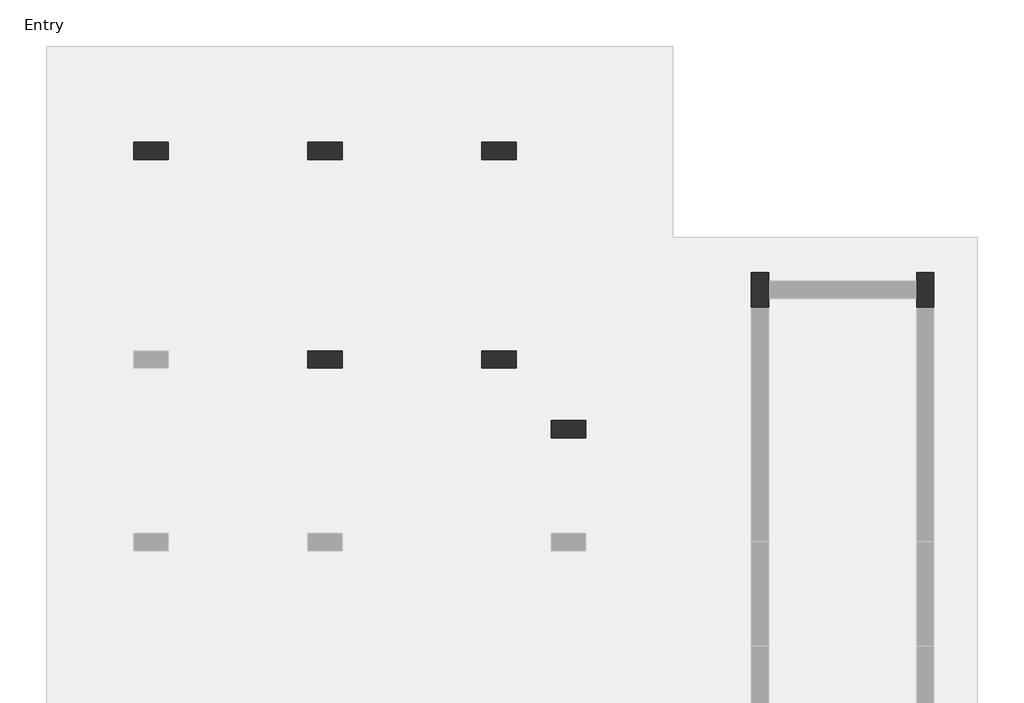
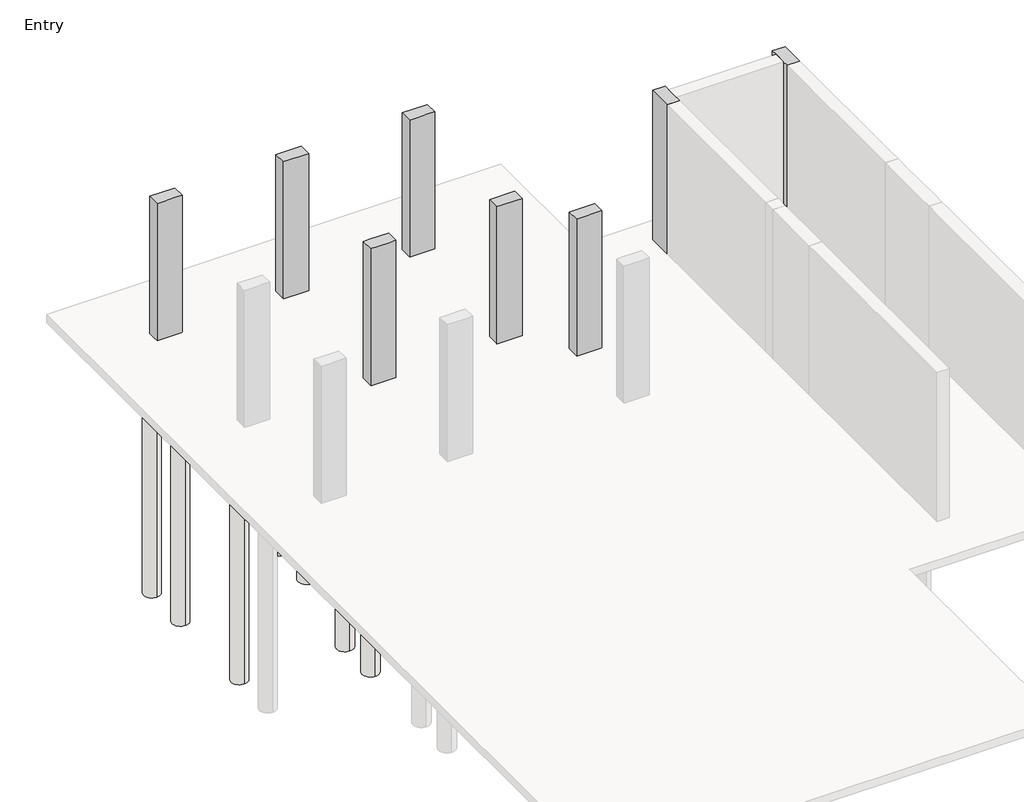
# One storey, part 3 of 3: 31 slabs, 15 columns, 3 footings.
"""IFC4 building model written with IfcOpenShell, lengths in millimetres."""

from ifc_helpers import new_model, si_unit, point, frame, frame_2d, origin, place, context, project, spatial, polyline, circle_curve, trimmed, segment, composite_curve, outline, extrude, faceted_brep, element, save

model = new_model("IFC4")

# Units and contexts
model_context = context("Model", 3, world=origin())
ifc_project = project(units=[si_unit("LENGTHUNIT", "METRE", prefix="MILLI")], contexts=[model_context])

# Site, building, storey
site = spatial("IfcSite", under=ifc_project)
building = spatial("IfcBuilding", under=site)
storey = spatial("IfcBuildingStorey", under=building, Name="Entry", Elevation=0.0)

# Columns
placement = place(None, origin())
element("IfcColumn", 1, ObjectType="Concrete-Rectangular-Column : 12 x 24", at=placement, inside=storey, context=model_context, shape_type="Brep", body=[
    faceted_brep([(-15677.5554735, 14646.9867088, 0.0), (-15067.9554735, 14646.9867088, 0.0), (-15067.9554735, 14342.1867088, 0.0), (-15677.5554735, 14342.1867088, 0.0), (-15677.5554735, 14646.9867088, 3505.2), (-15067.9554735, 14646.9867088, 3505.2), (-15067.9554735, 14646.9867088, 2895.6), (-15067.9554735, 14342.1867088, 3505.2), (-15067.9554735, 14342.1867088, 2895.6), (-15220.3554735, 14342.1867088, 3505.2), (-15525.1554735, 14342.1867088, 3505.2), (-15677.5554735, 14342.1867088, 3505.2)], [[[0, 1, 2, 3]], [[4, 5, 6, 1, 0]], [[5, 7, 8, 2, 1, 6]], [[7, 9, 10, 11, 3, 2, 8]], [[11, 4, 0, 3]], [[4, 11, 10, 9, 7, 5]]]),
])
element("IfcColumn", 2, ObjectType="Concrete-Rectangular-Column : 12 x 24", at=placement, inside=storey, context=model_context, shape_type="Brep", body=[
    faceted_brep([(-12629.5554735, 14646.9867088, 0.0), (-12019.9554735, 14646.9867088, 0.0), (-12019.9554735, 14342.1867088, 0.0), (-12629.5554735, 14342.1867088, 0.0), (-12629.5554735, 14646.9867088, 3505.2), (-12019.9554735, 14646.9867088, 3505.2), (-12019.9554735, 14646.9867088, 2895.6), (-12629.5554735, 14646.9867088, 2895.6), (-12019.9554735, 14342.1867088, 3505.2), (-12019.9554735, 14342.1867088, 2895.6), (-12172.3554735, 14342.1867088, 3505.2), (-12477.1554735, 14342.1867088, 3505.2), (-12629.5554735, 14342.1867088, 3505.2), (-12629.5554735, 14342.1867088, 2895.6)], [[[0, 1, 2, 3]], [[4, 5, 6, 1, 0, 7]], [[5, 8, 9, 2, 1, 6]], [[8, 10, 11, 12, 13, 3, 2, 9]], [[12, 4, 7, 0, 3, 13]], [[4, 12, 11, 10, 8, 5]]]),
])
element("IfcColumn", 3, ObjectType="Concrete-Rectangular-Column : 12 x 24", at=placement, inside=storey, context=model_context, shape_type="Brep", body=[
    faceted_brep([(-9581.5554735, 14646.9867088, 0.0), (-8971.9554735, 14646.9867088, 0.0), (-8971.9554735, 14342.1867088, 0.0), (-9581.5554735, 14342.1867088, 0.0), (-9581.5554735, 14646.9867088, 3505.2), (-8971.9554735, 14646.9867088, 3505.2), (-9581.5554735, 14646.9867088, 2895.6), (-8971.9554735, 14342.1867088, 3505.2), (-9124.3554735, 14342.1867088, 3505.2), (-9429.1554735, 14342.1867088, 3505.2), (-9581.5554735, 14342.1867088, 3505.2), (-9581.5554735, 14342.1867088, 2895.6)], [[[0, 1, 2, 3]], [[4, 5, 1, 0, 6]], [[5, 7, 2, 1]], [[7, 8, 9, 10, 11, 3, 2]], [[10, 4, 6, 0, 3, 11]], [[4, 10, 9, 8, 7, 5]]]),
])
element("IfcColumn", 4, ObjectType="Concrete-Rectangular-Column : 12 x 24", at=placement, inside=storey, context=model_context, shape_type="Brep", body=[
    faceted_brep([(-12629.5554735, 10989.3867088, 0.0), (-12019.9554735, 10989.3867088, 0.0), (-12019.9554735, 10684.5867088, 0.0), (-12629.5554735, 10684.5867088, 0.0), (-12629.5554735, 10989.3867088, 3505.2), (-12477.1554735, 10989.3867088, 3505.2), (-12172.3554735, 10989.3867088, 3505.2), (-12019.9554735, 10989.3867088, 3505.2), (-12019.9554735, 10989.3867088, 2895.6), (-12629.5554735, 10989.3867088, 2895.6), (-12019.9554735, 10684.5867088, 3505.2), (-12019.9554735, 10684.5867088, 2895.6), (-12172.3554735, 10684.5867088, 3505.2), (-12477.1554735, 10684.5867088, 3505.2), (-12629.5554735, 10684.5867088, 3505.2), (-12629.5554735, 10684.5867088, 2895.6)], [[[0, 1, 2, 3]], [[4, 5, 6, 7, 8, 1, 0, 9]], [[7, 10, 11, 2, 1, 8]], [[10, 12, 13, 14, 15, 3, 2, 11]], [[14, 4, 9, 0, 3, 15]], [[4, 14, 13, 12, 10, 7, 6, 5]]]),
])
element("IfcColumn", 5, ObjectType="Concrete-Rectangular-Column : 12 x 24", at=placement, inside=storey, context=model_context, shape_type="Brep", body=[
    faceted_brep([(-9581.5554735, 10989.3867088, 0.0), (-8971.9554735, 10989.3867088, 0.0), (-8971.9554735, 10684.5867088, 0.0), (-9581.5554735, 10684.5867088, 0.0), (-9581.5554735, 10989.3867088, 3505.2), (-9429.1554735, 10989.3867088, 3505.2), (-9124.3554735, 10989.3867088, 3505.2), (-8971.9554735, 10989.3867088, 3505.2), (-9581.5554735, 10989.3867088, 2895.6), (-8971.9554735, 10684.5867088, 3505.2), (-9124.3554735, 10684.5867088, 3505.2), (-9429.1554735, 10684.5867088, 3505.2), (-9581.5554735, 10684.5867088, 3505.2), (-9581.5554735, 10684.5867088, 2895.6)], [[[0, 1, 2, 3]], [[4, 5, 6, 7, 1, 0, 8]], [[7, 9, 2, 1]], [[9, 10, 11, 12, 13, 3, 2]], [[12, 4, 8, 0, 3, 13]], [[4, 12, 11, 10, 9, 7, 6, 5]]]),
])
element("IfcColumn", 6, ObjectType="Concrete-Rectangular-Column : 12 x 24", at=placement, inside=storey, context=model_context, shape_type="Brep", body=[
    faceted_brep([(-8362.3554735, 9770.1867088, 0.0), (-7752.7554735, 9770.1867088, 0.0), (-7752.7554735, 9465.3867088, 0.0), (-8362.3554735, 9465.3867088, 0.0), (-8362.3554735, 9770.1867088, 3505.2), (-7752.7554735, 9770.1867088, 3505.2), (-8362.3554735, 9770.1867088, 2895.6), (-7752.7554735, 9465.3867088, 3505.2), (-7905.1554735, 9465.3867088, 3505.2), (-8209.9554735, 9465.3867088, 3505.2), (-8362.3554735, 9465.3867088, 3505.2), (-8362.3554735, 9465.3867088, 2895.6)], [[[0, 1, 2, 3]], [[4, 5, 1, 0, 6]], [[5, 7, 2, 1]], [[7, 8, 9, 10, 11, 3, 2]], [[10, 4, 6, 0, 3, 11]], [[4, 10, 9, 8, 7, 5]]]),
])
element("IfcColumn", 7, ObjectType="Concrete-Rectangular-Column : 12 x 24", at=placement, inside=storey, context=model_context, shape_type="Brep", body=[
    faceted_brep([(-4552.3554735, 12360.9867088, 0.0), (-4552.3554735, 12208.5867088, 0.0), (-4552.3554735, 11903.7867088, 0.0), (-4552.3554735, 11751.3867088, 0.0), (-4857.1554735, 11751.3867088, 0.0), (-4857.1554735, 12360.9867088, 0.0), (-4552.3554735, 12360.9867088, 3810.0), (-4552.3554735, 12208.5867088, 3810.0), (-4552.3554735, 11903.7867088, 3810.0), (-4552.3554735, 11751.3867088, 3810.0), (-4857.1554735, 11751.3867088, 3810.0), (-4857.1554735, 12360.9867088, 3810.0)], [[[0, 1, 2, 3, 4, 5]], [[6, 7, 8, 9, 3, 2, 1, 0]], [[9, 10, 4, 3]], [[10, 11, 5, 4]], [[11, 6, 0, 5]], [[6, 11, 10, 9, 8, 7]]]),
])
element("IfcColumn", 8, ObjectType="Concrete-Rectangular-Column : 12 x 24", at=placement, inside=storey, context=model_context, shape_type="Brep", body=[
    faceted_brep([(-1656.7554735, 12360.9867088, 0.0), (-1656.7554735, 11751.3867088, 0.0), (-1961.5554735, 11751.3867088, 0.0), (-1961.5554735, 11903.7867088, 0.0), (-1961.5554735, 12208.5867088, 0.0), (-1961.5554735, 12360.9867088, 0.0), (-1656.7554735, 12360.9867088, 3810.0), (-1656.7554735, 11751.3867088, 3810.0), (-1961.5554735, 11751.3867088, 3810.0), (-1961.5554735, 11903.7867088, 3810.0), (-1961.5554735, 12208.5867088, 3810.0), (-1961.5554735, 12360.9867088, 3810.0)], [[[0, 1, 2, 3, 4, 5]], [[6, 7, 1, 0]], [[7, 8, 2, 1]], [[8, 9, 10, 11, 5, 4, 3, 2]], [[11, 6, 0, 5]], [[6, 11, 10, 9, 8, 7]]]),
])
element("IfcColumn", 9, ObjectType="Concrete-Rectangular-Column : 12 x 24", at=placement, inside=storey, context=model_context, shape_type="Brep", body=[
    faceted_brep([(-15677.5554735, 14646.9867088, 0.0), (-15067.9554735, 14646.9867088, 0.0), (-15067.9554735, 14342.1867088, 0.0), (-15677.5554735, 14342.1867088, 0.0), (-15677.5554735, 14646.9867088, 3505.2), (-15067.9554735, 14646.9867088, 3505.2), (-15067.9554735, 14646.9867088, 2895.6), (-15067.9554735, 14342.1867088, 3505.2), (-15067.9554735, 14342.1867088, 2895.6), (-15220.3554735, 14342.1867088, 3505.2), (-15525.1554735, 14342.1867088, 3505.2), (-15677.5554735, 14342.1867088, 3505.2)], [[[0, 1, 2, 3]], [[4, 5, 6, 1, 0]], [[5, 7, 8, 2, 1, 6]], [[7, 9, 10, 11, 3, 2, 8]], [[11, 4, 0, 3]], [[4, 11, 10, 9, 7, 5]]]),
])
element("IfcColumn", 10, ObjectType="Concrete-Rectangular-Column : 12 x 24", at=placement, inside=storey, context=model_context, shape_type="Brep", body=[
    faceted_brep([(-12629.5554735, 14646.9867088, 0.0), (-12019.9554735, 14646.9867088, 0.0), (-12019.9554735, 14342.1867088, 0.0), (-12629.5554735, 14342.1867088, 0.0), (-12629.5554735, 14646.9867088, 3505.2), (-12019.9554735, 14646.9867088, 3505.2), (-12019.9554735, 14646.9867088, 2895.6), (-12629.5554735, 14646.9867088, 2895.6), (-12019.9554735, 14342.1867088, 3505.2), (-12019.9554735, 14342.1867088, 2895.6), (-12172.3554735, 14342.1867088, 3505.2), (-12477.1554735, 14342.1867088, 3505.2), (-12629.5554735, 14342.1867088, 3505.2), (-12629.5554735, 14342.1867088, 2895.6)], [[[0, 1, 2, 3]], [[4, 5, 6, 1, 0, 7]], [[5, 8, 9, 2, 1, 6]], [[8, 10, 11, 12, 13, 3, 2, 9]], [[12, 4, 7, 0, 3, 13]], [[4, 12, 11, 10, 8, 5]]]),
])
element("IfcColumn", 11, ObjectType="Concrete-Rectangular-Column : 12 x 24", at=placement, inside=storey, context=model_context, shape_type="Brep", body=[
    faceted_brep([(-9581.5554735, 14646.9867088, 0.0), (-8971.9554735, 14646.9867088, 0.0), (-8971.9554735, 14342.1867088, 0.0), (-9581.5554735, 14342.1867088, 0.0), (-9581.5554735, 14646.9867088, 3505.2), (-8971.9554735, 14646.9867088, 3505.2), (-9581.5554735, 14646.9867088, 2895.6), (-8971.9554735, 14342.1867088, 3505.2), (-9124.3554735, 14342.1867088, 3505.2), (-9429.1554735, 14342.1867088, 3505.2), (-9581.5554735, 14342.1867088, 3505.2), (-9581.5554735, 14342.1867088, 2895.6)], [[[0, 1, 2, 3]], [[4, 5, 1, 0, 6]], [[5, 7, 2, 1]], [[7, 8, 9, 10, 11, 3, 2]], [[10, 4, 6, 0, 3, 11]], [[4, 10, 9, 8, 7, 5]]]),
])
element("IfcColumn", 12, ObjectType="Concrete-Rectangular-Column : 12 x 24", at=placement, inside=storey, context=model_context, shape_type="Brep", body=[
    faceted_brep([(-12629.5554735, 10989.3867088, 0.0), (-12019.9554735, 10989.3867088, 0.0), (-12019.9554735, 10684.5867088, 0.0), (-12629.5554735, 10684.5867088, 0.0), (-12629.5554735, 10989.3867088, 3505.2), (-12477.1554735, 10989.3867088, 3505.2), (-12172.3554735, 10989.3867088, 3505.2), (-12019.9554735, 10989.3867088, 3505.2), (-12019.9554735, 10989.3867088, 2895.6), (-12629.5554735, 10989.3867088, 2895.6), (-12019.9554735, 10684.5867088, 3505.2), (-12019.9554735, 10684.5867088, 2895.6), (-12172.3554735, 10684.5867088, 3505.2), (-12477.1554735, 10684.5867088, 3505.2), (-12629.5554735, 10684.5867088, 3505.2), (-12629.5554735, 10684.5867088, 2895.6)], [[[0, 1, 2, 3]], [[4, 5, 6, 7, 8, 1, 0, 9]], [[7, 10, 11, 2, 1, 8]], [[10, 12, 13, 14, 15, 3, 2, 11]], [[14, 4, 9, 0, 3, 15]], [[4, 14, 13, 12, 10, 7, 6, 5]]]),
])
element("IfcColumn", 13, ObjectType="Concrete-Rectangular-Column : 12 x 24", at=placement, inside=storey, context=model_context, shape_type="Brep", body=[
    faceted_brep([(-9581.5554735, 10989.3867088, 0.0), (-8971.9554735, 10989.3867088, 0.0), (-8971.9554735, 10684.5867088, 0.0), (-9581.5554735, 10684.5867088, 0.0), (-9581.5554735, 10989.3867088, 3505.2), (-9429.1554735, 10989.3867088, 3505.2), (-9124.3554735, 10989.3867088, 3505.2), (-8971.9554735, 10989.3867088, 3505.2), (-9581.5554735, 10989.3867088, 2895.6), (-8971.9554735, 10684.5867088, 3505.2), (-9124.3554735, 10684.5867088, 3505.2), (-9429.1554735, 10684.5867088, 3505.2), (-9581.5554735, 10684.5867088, 3505.2), (-9581.5554735, 10684.5867088, 2895.6)], [[[0, 1, 2, 3]], [[4, 5, 6, 7, 1, 0, 8]], [[7, 9, 2, 1]], [[9, 10, 11, 12, 13, 3, 2]], [[12, 4, 8, 0, 3, 13]], [[4, 12, 11, 10, 9, 7, 6, 5]]]),
])
element("IfcColumn", 14, ObjectType="Concrete-Rectangular-Column : 12 x 24", at=placement, inside=storey, context=model_context, shape_type="Brep", body=[
    faceted_brep([(-8362.3554735, 9770.1867088, 0.0), (-7752.7554735, 9770.1867088, 0.0), (-7752.7554735, 9465.3867088, 0.0), (-8362.3554735, 9465.3867088, 0.0), (-8362.3554735, 9770.1867088, 3505.2), (-7752.7554735, 9770.1867088, 3505.2), (-8362.3554735, 9770.1867088, 2895.6), (-7752.7554735, 9465.3867088, 3505.2), (-7905.1554735, 9465.3867088, 3505.2), (-8209.9554735, 9465.3867088, 3505.2), (-8362.3554735, 9465.3867088, 3505.2), (-8362.3554735, 9465.3867088, 2895.6)], [[[0, 1, 2, 3]], [[4, 5, 1, 0, 6]], [[5, 7, 2, 1]], [[7, 8, 9, 10, 11, 3, 2]], [[10, 4, 6, 0, 3, 11]], [[4, 10, 9, 8, 7, 5]]]),
])
element("IfcColumn", 15, ObjectType="Concrete-Rectangular-Column : 12 x 24", at=placement, inside=storey, context=model_context, shape_type="Brep", body=[
    faceted_brep([(-4552.3554735, 12360.9867088, 0.0), (-4552.3554735, 12208.5867088, 0.0), (-4552.3554735, 11903.7867088, 0.0), (-4552.3554735, 11751.3867088, 0.0), (-4857.1554735, 11751.3867088, 0.0), (-4857.1554735, 12360.9867088, 0.0), (-4552.3554735, 12360.9867088, 3810.0), (-4552.3554735, 12208.5867088, 3810.0), (-4552.3554735, 11903.7867088, 3810.0), (-4552.3554735, 11751.3867088, 3810.0), (-4857.1554735, 11751.3867088, 3810.0), (-4857.1554735, 12360.9867088, 3810.0)], [[[0, 1, 2, 3, 4, 5]], [[6, 7, 8, 9, 3, 2, 1, 0]], [[9, 10, 4, 3]], [[10, 11, 5, 4]], [[11, 6, 0, 5]], [[6, 11, 10, 9, 8, 7]]]),
])

# Footings
element("IfcFooting", 16, ObjectType="Bearing Footing - 36\" x 12\"", at=placement, inside=storey, context=model_context, shape_type="Brep", body=[
    faceted_brep([(-4552.3554735, 12513.3867088, -304.8), (-4552.3554735, 12462.5867088, -304.8), (-4552.3554735, 12462.5867088, -203.2), (-4552.3554735, 12513.3867088, -203.2), (-4552.3554735, 11649.7867088, -304.8), (-4552.3554735, 11598.9867088, -304.8), (-4552.3554735, 11598.9867088, -203.2), (-4552.3554735, 11649.7867088, -203.2), (-1961.5554735, 12462.5867088, -304.8), (-1961.5554735, 12513.3867088, -304.8), (-1961.5554735, 12513.3867088, -203.2), (-1961.5554735, 12462.5867088, -203.2), (-1961.5554735, 11598.9867088, -304.8), (-1961.5554735, 11649.7867088, -304.8), (-1961.5554735, 11649.7867088, -203.2), (-1961.5554735, 11598.9867088, -203.2), (-2710.8554735, 12462.5867088, -304.8), (-2710.8554735, 11649.7867088, -304.8), (-2266.3554735, 11598.9867088, -304.8), (-4247.5554735, 11598.9867088, -304.8), (-3803.0554735, 11649.7867088, -304.8), (-3803.0554735, 12462.5867088, -304.8), (-2266.3554735, 11598.9867088, -203.2), (-4247.5554735, 11598.9867088, -203.2), (-3803.0554735, 12462.5867088, -203.2), (-3803.0554735, 11649.7867088, -203.2), (-2710.8554735, 11649.7867088, -203.2), (-2710.8554735, 12462.5867088, -203.2)], [[[0, 1, 2, 3]], [[4, 5, 6, 7]], [[8, 9, 10, 11]], [[12, 13, 14, 15]], [[9, 0, 3, 10]], [[0, 9, 8, 16, 17, 13, 12, 18, 19, 5, 4, 20, 21, 1]], [[5, 19, 18, 12, 15, 22, 23, 6]], [[3, 2, 24, 25, 7, 6, 23, 22, 15, 14, 26, 27, 11, 10]], [[1, 21, 24, 2]], [[20, 4, 7, 25]], [[21, 20, 25, 24]], [[16, 8, 11, 27]], [[17, 16, 27, 26]], [[13, 17, 26, 14]]]),
])
element("IfcFooting", 17, ObjectType="Bearing Footing - 36\" x 12\"", at=placement, inside=storey, context=model_context, shape_type="SweptSolid", body=[
    extrude(outline(polyline([(-1351.9554735, 11649.7867088), (-1351.9554735, 7636.5867088), (-1402.7554735, 7636.5867088), (-1402.7554735, 8538.2867088), (-2215.5554735, 8538.2867088), (-2215.5554735, 7636.5867088), (-2266.3554735, 7636.5867088), (-2266.3554735, 11598.9867088), (-1961.5554735, 11598.9867088), (-1961.5554735, 11649.7867088), (-1351.9554735, 11649.7867088)])), frame((0.0, 0.0, -304.8), z_axis=(0.0, 0.0, 1.0), x_axis=(1.0, 0.0, 0.0)), (0.0, 0.0, 1.0), 101.6),
])
element("IfcFooting", 18, ObjectType="Bearing Footing - 36\" x 12\"", at=placement, inside=storey, context=model_context, shape_type="SweptSolid", body=[
    extrude(outline(polyline([(-5161.9554735, 7636.5867088), (-5161.9554735, 11649.7867088), (-4552.3554735, 11649.7867088), (-4552.3554735, 11598.9867088), (-4247.5554735, 11598.9867088), (-4247.5554735, 7636.5867088), (-4298.3554735, 7636.5867088), (-4298.3554735, 8538.2867088), (-5111.1554735, 8538.2867088), (-5111.1554735, 7636.5867088), (-5161.9554735, 7636.5867088)])), frame((0.0, 0.0, -304.8), z_axis=(0.0, 0.0, 1.0), x_axis=(1.0, 0.0, 0.0)), (0.0, 0.0, 1.0), 101.6),
])

# Slabs
element("IfcSlab", 19, ObjectType="Pile Cap-2 Pile : 31\"x61\"x35\"", at=placement, inside=storey, context=model_context, shape_type="SweptSolid", body=[
    extrude(outline(polyline([(-15779.1554735, 15396.2867088), (-14966.3554735, 15396.2867088), (-14966.3554735, 13592.8867088), (-15779.1554735, 13592.8867088), (-15779.1554735, 15396.2867088)])), frame((0.0, 0.0, -889.0), z_axis=(0.0, 0.0, 1.0), x_axis=(1.0, 0.0, 0.0)), (0.0, 0.0, 1.0), 685.8),
])
element("IfcSlab", 20, ObjectType="Pile Cap-2 Pile : 31\"x61\"x35\"", at=placement, inside=storey, context=model_context, shape_type="SweptSolid", body=[
    extrude(outline(polyline([(-12731.1554735, 15396.2867088), (-11918.3554735, 15396.2867088), (-11918.3554735, 13592.8867088), (-12731.1554735, 13592.8867088), (-12731.1554735, 15396.2867088)])), frame((0.0, 0.0, -889.0), z_axis=(0.0, 0.0, 1.0), x_axis=(1.0, 0.0, 0.0)), (0.0, 0.0, 1.0), 685.8),
])
element("IfcSlab", 21, ObjectType="Pile Cap-2 Pile : 31\"x61\"x35\"", at=placement, inside=storey, context=model_context, shape_type="SweptSolid", body=[
    extrude(outline(polyline([(-9683.1554735, 15396.2867088), (-8870.3554735, 15396.2867088), (-8870.3554735, 13592.8867088), (-9683.1554735, 13592.8867088), (-9683.1554735, 15396.2867088)])), frame((0.0, 0.0, -889.0), z_axis=(0.0, 0.0, 1.0), x_axis=(1.0, 0.0, 0.0)), (0.0, 0.0, 1.0), 685.8),
])
element("IfcSlab", 22, ObjectType="Pile Cap-2 Pile : 31\"x61\"x35\"", at=placement, inside=storey, context=model_context, shape_type="SweptSolid", body=[
    extrude(outline(polyline([(-9683.1554735, 11738.6867088), (-8870.3554735, 11738.6867088), (-8870.3554735, 9935.2867088), (-9683.1554735, 9935.2867088), (-9683.1554735, 11738.6867088)])), frame((0.0, 0.0, -889.0), z_axis=(0.0, 0.0, 1.0), x_axis=(1.0, 0.0, 0.0)), (0.0, 0.0, 1.0), 685.8),
])
element("IfcSlab", 23, ObjectType="Pile Cap-2 Pile : 31\"x61\"x35\"", at=placement, inside=storey, context=model_context, shape_type="Brep", body=[
    faceted_brep([(-3803.0554735, 12462.5867088, -889.0), (-3803.0554735, 11649.7867088, -889.0), (-5606.4554735, 11649.7867088, -889.0), (-5606.4554735, 12462.5867088, -889.0), (-5606.4554735, 12462.5867088, -203.2), (-4552.3554735, 12462.5867088, -203.2), (-3803.0554735, 12462.5867088, -203.2), (-3803.0554735, 12462.5867088, -304.8), (-5606.4554735, 11649.7867088, -203.2), (-3803.0554735, 11649.7867088, -304.8), (-3803.0554735, 11649.7867088, -203.2), (-4552.3554735, 11649.7867088, -203.2), (-5161.9554735, 11649.7867088, -203.2)], [[[0, 1, 2, 3]], [[0, 3, 4, 5, 6, 7]], [[3, 2, 8, 4]], [[2, 1, 9, 10, 11, 12, 8]], [[1, 0, 7, 6, 10, 9]], [[6, 5, 4, 8, 12, 11, 10]]]),
])
element("IfcSlab", 24, ObjectType="Pile Cap-2 Pile : 31\"x61\"x35\"", at=placement, inside=storey, context=model_context, shape_type="Brep", body=[
    faceted_brep([(-907.4554735, 12462.5867088, -889.0), (-907.4554735, 11649.7867088, -889.0), (-2710.8554735, 11649.7867088, -889.0), (-2710.8554735, 12462.5867088, -889.0), (-2710.8554735, 12462.5867088, -304.8), (-2710.8554735, 12462.5867088, -203.2), (-1961.5554735, 12462.5867088, -203.2), (-907.4554735, 12462.5867088, -203.2), (-2710.8554735, 11649.7867088, -304.8), (-2710.8554735, 11649.7867088, -203.2), (-907.4554735, 11649.7867088, -203.2), (-1351.9554735, 11649.7867088, -203.2), (-1961.5554735, 11649.7867088, -203.2)], [[[0, 1, 2, 3]], [[0, 3, 4, 5, 6, 7]], [[3, 2, 8, 9, 5, 4]], [[2, 1, 10, 11, 12, 9, 8]], [[1, 0, 7, 10]], [[7, 6, 5, 9, 12, 11, 10]]]),
])
element("IfcSlab", 25, ObjectType="Pile Cap-2 Pile : 31\"x61\"x35\"", at=placement, inside=storey, context=model_context, shape_type="SweptSolid", body=[
    extrude(outline(polyline([(-8463.9554735, 10519.4867088), (-7651.1554735, 10519.4867088), (-7651.1554735, 8716.0867088), (-8463.9554735, 8716.0867088), (-8463.9554735, 10519.4867088)])), frame((0.0, 0.0, -889.0), z_axis=(0.0, 0.0, 1.0), x_axis=(1.0, 0.0, 0.0)), (0.0, 0.0, 1.0), 685.8),
])
element("IfcSlab", 26, ObjectType="Pile Cap-4 Pile : 72\"x72\"x35\"", at=placement, inside=storey, context=model_context, shape_type="SweptSolid", body=[
    extrude(outline(polyline([(-13239.1554735, 11751.3867088), (-11410.3554735, 11751.3867088), (-11410.3554735, 9922.5867088), (-13239.1554735, 9922.5867088), (-13239.1554735, 11751.3867088)])), frame((0.0, 0.0, -889.0), z_axis=(0.0, 0.0, 1.0), x_axis=(1.0, 0.0, 0.0)), (0.0, 0.0, 1.0), 685.8),
])
element("IfcSlab", 27, ObjectType="Pile-Steel Pipe : 16\" Diameter", at=placement, inside=storey, context=model_context, shape_type="SweptSolid", body=[
    extrude(outline(composite_curve([segment(trimmed(circle_curve(frame_2d((-12858.1554735, 10303.5867088)), 203.2), [point((-12858.1554735, 10100.3867088))], [point((-12858.1554735, 10506.7867088))], False, "CARTESIAN"), True, "CONTINUOUS"), segment(trimmed(circle_curve(frame_2d((-12858.1554735, 10303.5867088)), 203.2), [point((-12858.1554735, 10506.7867088))], [point((-12858.1554735, 10100.3867088))], False, "CARTESIAN"), True, "CONTINUOUS")], self_intersect=False)), frame((0.0, 0.0, -6985.0), z_axis=(0.0, 0.0, 1.0), x_axis=(1.0, 0.0, 0.0)), (0.0, 0.0, 1.0), 6096.0),
])
element("IfcSlab", 28, ObjectType="Pile-Steel Pipe : 16\" Diameter", at=placement, inside=storey, context=model_context, shape_type="SweptSolid", body=[
    extrude(outline(composite_curve([segment(trimmed(circle_curve(frame_2d((-11791.3554735, 10303.5867088)), 203.2), [point((-11791.3554735, 10100.3867088))], [point((-11791.3554735, 10506.7867088))], False, "CARTESIAN"), True, "CONTINUOUS"), segment(trimmed(circle_curve(frame_2d((-11791.3554735, 10303.5867088)), 203.2), [point((-11791.3554735, 10506.7867088))], [point((-11791.3554735, 10100.3867088))], False, "CARTESIAN"), True, "CONTINUOUS")], self_intersect=False)), frame((0.0, 0.0, -6985.0), z_axis=(0.0, 0.0, 1.0), x_axis=(1.0, 0.0, 0.0)), (0.0, 0.0, 1.0), 6096.0),
])
element("IfcSlab", 29, ObjectType="Pile-Steel Pipe : 16\" Diameter", at=placement, inside=storey, context=model_context, shape_type="SweptSolid", body=[
    extrude(outline(composite_curve([segment(trimmed(circle_curve(frame_2d((-11791.3554735, 11370.3867088)), 203.2), [point((-11791.3554735, 11167.1867088))], [point((-11791.3554735, 11573.5867088))], False, "CARTESIAN"), True, "CONTINUOUS"), segment(trimmed(circle_curve(frame_2d((-11791.3554735, 11370.3867088)), 203.2), [point((-11791.3554735, 11573.5867088))], [point((-11791.3554735, 11167.1867088))], False, "CARTESIAN"), True, "CONTINUOUS")], self_intersect=False)), frame((0.0, 0.0, -6985.0), z_axis=(0.0, 0.0, 1.0), x_axis=(1.0, 0.0, 0.0)), (0.0, 0.0, 1.0), 6096.0),
])
element("IfcSlab", 30, ObjectType="Pile-Steel Pipe : 16\" Diameter", at=placement, inside=storey, context=model_context, shape_type="SweptSolid", body=[
    extrude(outline(composite_curve([segment(trimmed(circle_curve(frame_2d((-12858.1554735, 11370.3867088)), 203.2), [point((-12858.1554735, 11167.1867088))], [point((-12858.1554735, 11573.5867088))], False, "CARTESIAN"), True, "CONTINUOUS"), segment(trimmed(circle_curve(frame_2d((-12858.1554735, 11370.3867088)), 203.2), [point((-12858.1554735, 11573.5867088))], [point((-12858.1554735, 11167.1867088))], False, "CARTESIAN"), True, "CONTINUOUS")], self_intersect=False)), frame((0.0, 0.0, -6985.0), z_axis=(0.0, 0.0, 1.0), x_axis=(1.0, 0.0, 0.0)), (0.0, 0.0, 1.0), 6096.0),
])
element("IfcSlab", 31, ObjectType="Pile-Steel Pipe : 16\" Diameter", at=placement, inside=storey, context=model_context, shape_type="SweptSolid", body=[
    extrude(outline(composite_curve([segment(trimmed(circle_curve(frame_2d((-11791.3554735, 8169.9867088)), 203.2), [point((-11791.3554735, 7966.7867088))], [point((-11791.3554735, 8373.1867088))], False, "CARTESIAN"), True, "CONTINUOUS"), segment(trimmed(circle_curve(frame_2d((-11791.3554735, 8169.9867088)), 203.2), [point((-11791.3554735, 8373.1867088))], [point((-11791.3554735, 7966.7867088))], False, "CARTESIAN"), True, "CONTINUOUS")], self_intersect=False)), frame((0.0, 0.0, -6985.0), z_axis=(0.0, 0.0, 1.0), x_axis=(1.0, 0.0, 0.0)), (0.0, 0.0, 1.0), 6096.0),
])
element("IfcSlab", 32, ObjectType="Pile-Steel Pipe : 16\" Diameter", at=placement, inside=storey, context=model_context, shape_type="SweptSolid", body=[
    extrude(outline(composite_curve([segment(trimmed(circle_curve(frame_2d((-15372.7554735, 15091.4867088)), 203.2), [point((-15372.7554735, 14888.2867088))], [point((-15372.7554735, 15294.6867088))], False, "CARTESIAN"), True, "CONTINUOUS"), segment(trimmed(circle_curve(frame_2d((-15372.7554735, 15091.4867088)), 203.2), [point((-15372.7554735, 15294.6867088))], [point((-15372.7554735, 14888.2867088))], False, "CARTESIAN"), True, "CONTINUOUS")], self_intersect=False)), frame((0.0, 0.0, -6985.0), z_axis=(0.0, 0.0, 1.0), x_axis=(1.0, 0.0, 0.0)), (0.0, 0.0, 1.0), 6096.0),
])
element("IfcSlab", 33, ObjectType="Pile-Steel Pipe : 16\" Diameter", at=placement, inside=storey, context=model_context, shape_type="SweptSolid", body=[
    extrude(outline(composite_curve([segment(trimmed(circle_curve(frame_2d((-15372.7554735, 13897.6867088)), 203.2), [point((-15372.7554735, 13694.4867088))], [point((-15372.7554735, 14100.8867088))], False, "CARTESIAN"), True, "CONTINUOUS"), segment(trimmed(circle_curve(frame_2d((-15372.7554735, 13897.6867088)), 203.2), [point((-15372.7554735, 14100.8867088))], [point((-15372.7554735, 13694.4867088))], False, "CARTESIAN"), True, "CONTINUOUS")], self_intersect=False)), frame((0.0, 0.0, -6985.0), z_axis=(0.0, 0.0, 1.0), x_axis=(1.0, 0.0, 0.0)), (0.0, 0.0, 1.0), 6096.0),
])
element("IfcSlab", 34, ObjectType="Pile-Steel Pipe : 16\" Diameter", at=placement, inside=storey, context=model_context, shape_type="SweptSolid", body=[
    extrude(outline(composite_curve([segment(trimmed(circle_curve(frame_2d((-12324.7554735, 15091.4867088)), 203.2), [point((-12324.7554735, 14888.2867088))], [point((-12324.7554735, 15294.6867088))], False, "CARTESIAN"), True, "CONTINUOUS"), segment(trimmed(circle_curve(frame_2d((-12324.7554735, 15091.4867088)), 203.2), [point((-12324.7554735, 15294.6867088))], [point((-12324.7554735, 14888.2867088))], False, "CARTESIAN"), True, "CONTINUOUS")], self_intersect=False)), frame((0.0, 0.0, -6985.0), z_axis=(0.0, 0.0, 1.0), x_axis=(1.0, 0.0, 0.0)), (0.0, 0.0, 1.0), 6096.0),
])
element("IfcSlab", 35, ObjectType="Pile-Steel Pipe : 16\" Diameter", at=placement, inside=storey, context=model_context, shape_type="SweptSolid", body=[
    extrude(outline(composite_curve([segment(trimmed(circle_curve(frame_2d((-12324.7554735, 13897.6867088)), 203.2), [point((-12324.7554735, 13694.4867088))], [point((-12324.7554735, 14100.8867088))], False, "CARTESIAN"), True, "CONTINUOUS"), segment(trimmed(circle_curve(frame_2d((-12324.7554735, 13897.6867088)), 203.2), [point((-12324.7554735, 14100.8867088))], [point((-12324.7554735, 13694.4867088))], False, "CARTESIAN"), True, "CONTINUOUS")], self_intersect=False)), frame((0.0, 0.0, -6985.0), z_axis=(0.0, 0.0, 1.0), x_axis=(1.0, 0.0, 0.0)), (0.0, 0.0, 1.0), 6096.0),
])
element("IfcSlab", 36, ObjectType="Pile-Steel Pipe : 16\" Diameter", at=placement, inside=storey, context=model_context, shape_type="SweptSolid", body=[
    extrude(outline(composite_curve([segment(trimmed(circle_curve(frame_2d((-9276.7554735, 15091.4867088)), 203.2), [point((-9276.7554735, 14888.2867088))], [point((-9276.7554735, 15294.6867088))], False, "CARTESIAN"), True, "CONTINUOUS"), segment(trimmed(circle_curve(frame_2d((-9276.7554735, 15091.4867088)), 203.2), [point((-9276.7554735, 15294.6867088))], [point((-9276.7554735, 14888.2867088))], False, "CARTESIAN"), True, "CONTINUOUS")], self_intersect=False)), frame((0.0, 0.0, -6985.0), z_axis=(0.0, 0.0, 1.0), x_axis=(1.0, 0.0, 0.0)), (0.0, 0.0, 1.0), 6096.0),
])
element("IfcSlab", 37, ObjectType="Pile-Steel Pipe : 16\" Diameter", at=placement, inside=storey, context=model_context, shape_type="SweptSolid", body=[
    extrude(outline(composite_curve([segment(trimmed(circle_curve(frame_2d((-9276.7554735, 13897.6867088)), 203.2), [point((-9276.7554735, 13694.4867088))], [point((-9276.7554735, 14100.8867088))], False, "CARTESIAN"), True, "CONTINUOUS"), segment(trimmed(circle_curve(frame_2d((-9276.7554735, 13897.6867088)), 203.2), [point((-9276.7554735, 14100.8867088))], [point((-9276.7554735, 13694.4867088))], False, "CARTESIAN"), True, "CONTINUOUS")], self_intersect=False)), frame((0.0, 0.0, -6985.0), z_axis=(0.0, 0.0, 1.0), x_axis=(1.0, 0.0, 0.0)), (0.0, 0.0, 1.0), 6096.0),
])
element("IfcSlab", 38, ObjectType="Pile-Steel Pipe : 16\" Diameter", at=placement, inside=storey, context=model_context, shape_type="SweptSolid", body=[
    extrude(outline(composite_curve([segment(trimmed(circle_curve(frame_2d((-15372.7554735, 11433.8867088)), 203.2), [point((-15372.7554735, 11230.6867088))], [point((-15372.7554735, 11637.0867088))], False, "CARTESIAN"), True, "CONTINUOUS"), segment(trimmed(circle_curve(frame_2d((-15372.7554735, 11433.8867088)), 203.2), [point((-15372.7554735, 11637.0867088))], [point((-15372.7554735, 11230.6867088))], False, "CARTESIAN"), True, "CONTINUOUS")], self_intersect=False)), frame((0.0, 0.0, -6985.0), z_axis=(0.0, 0.0, 1.0), x_axis=(1.0, 0.0, 0.0)), (0.0, 0.0, 1.0), 6096.0),
])
element("IfcSlab", 39, ObjectType="Pile-Steel Pipe : 16\" Diameter", at=placement, inside=storey, context=model_context, shape_type="SweptSolid", body=[
    extrude(outline(composite_curve([segment(trimmed(circle_curve(frame_2d((-8057.5554735, 8233.4867088)), 203.2), [point((-8057.5554735, 8030.2867088))], [point((-8057.5554735, 8436.6867088))], False, "CARTESIAN"), True, "CONTINUOUS"), segment(trimmed(circle_curve(frame_2d((-8057.5554735, 8233.4867088)), 203.2), [point((-8057.5554735, 8436.6867088))], [point((-8057.5554735, 8030.2867088))], False, "CARTESIAN"), True, "CONTINUOUS")], self_intersect=False)), frame((0.0, 0.0, -6985.0), z_axis=(0.0, 0.0, 1.0), x_axis=(1.0, 0.0, 0.0)), (0.0, 0.0, 1.0), 6096.0),
])
element("IfcSlab", 40, ObjectType="Pile-Steel Pipe : 16\" Diameter", at=placement, inside=storey, context=model_context, shape_type="SweptSolid", body=[
    extrude(outline(composite_curve([segment(trimmed(circle_curve(frame_2d((-9276.7554735, 11433.8867088)), 203.2), [point((-9276.7554735, 11230.6867088))], [point((-9276.7554735, 11637.0867088))], False, "CARTESIAN"), True, "CONTINUOUS"), segment(trimmed(circle_curve(frame_2d((-9276.7554735, 11433.8867088)), 203.2), [point((-9276.7554735, 11637.0867088))], [point((-9276.7554735, 11230.6867088))], False, "CARTESIAN"), True, "CONTINUOUS")], self_intersect=False)), frame((0.0, 0.0, -6985.0), z_axis=(0.0, 0.0, 1.0), x_axis=(1.0, 0.0, 0.0)), (0.0, 0.0, 1.0), 6096.0),
])
element("IfcSlab", 41, ObjectType="Pile-Steel Pipe : 16\" Diameter", at=placement, inside=storey, context=model_context, shape_type="SweptSolid", body=[
    extrude(outline(composite_curve([segment(trimmed(circle_curve(frame_2d((-9276.7554735, 10240.0867088)), 203.2), [point((-9276.7554735, 10036.8867088))], [point((-9276.7554735, 10443.2867088))], False, "CARTESIAN"), True, "CONTINUOUS"), segment(trimmed(circle_curve(frame_2d((-9276.7554735, 10240.0867088)), 203.2), [point((-9276.7554735, 10443.2867088))], [point((-9276.7554735, 10036.8867088))], False, "CARTESIAN"), True, "CONTINUOUS")], self_intersect=False)), frame((0.0, 0.0, -6985.0), z_axis=(0.0, 0.0, 1.0), x_axis=(1.0, 0.0, 0.0)), (0.0, 0.0, 1.0), 6096.0),
])
element("IfcSlab", 42, ObjectType="Pile-Steel Pipe : 16\" Diameter", at=placement, inside=storey, context=model_context, shape_type="SweptSolid", body=[
    extrude(outline(composite_curve([segment(trimmed(circle_curve(frame_2d((-4107.8554735, 12056.1867088)), 203.2), [point((-4311.0554735, 12056.1867088))], [point((-3904.6554735, 12056.1867088))], False, "CARTESIAN"), True, "CONTINUOUS"), segment(trimmed(circle_curve(frame_2d((-4107.8554735, 12056.1867088)), 203.2), [point((-3904.6554735, 12056.1867088))], [point((-4311.0554735, 12056.1867088))], False, "CARTESIAN"), True, "CONTINUOUS")], self_intersect=False)), frame((0.0, 0.0, -6985.0), z_axis=(0.0, 0.0, 1.0), x_axis=(1.0, 0.0, 0.0)), (0.0, 0.0, 1.0), 6096.0),
])
element("IfcSlab", 43, ObjectType="Pile-Steel Pipe : 16\" Diameter", at=placement, inside=storey, context=model_context, shape_type="SweptSolid", body=[
    extrude(outline(composite_curve([segment(trimmed(circle_curve(frame_2d((-5301.6554735, 12056.1867088)), 203.2), [point((-5504.8554735, 12056.1867088))], [point((-5098.4554735, 12056.1867088))], False, "CARTESIAN"), True, "CONTINUOUS"), segment(trimmed(circle_curve(frame_2d((-5301.6554735, 12056.1867088)), 203.2), [point((-5098.4554735, 12056.1867088))], [point((-5504.8554735, 12056.1867088))], False, "CARTESIAN"), True, "CONTINUOUS")], self_intersect=False)), frame((0.0, 0.0, -6985.0), z_axis=(0.0, 0.0, 1.0), x_axis=(1.0, 0.0, 0.0)), (0.0, 0.0, 1.0), 6096.0),
])
element("IfcSlab", 44, ObjectType="Pile-Steel Pipe : 16\" Diameter", at=placement, inside=storey, context=model_context, shape_type="SweptSolid", body=[
    extrude(outline(composite_curve([segment(trimmed(circle_curve(frame_2d((-1212.2554735, 12056.1867088)), 203.2), [point((-1415.4554735, 12056.1867088))], [point((-1009.0554735, 12056.1867088))], False, "CARTESIAN"), True, "CONTINUOUS"), segment(trimmed(circle_curve(frame_2d((-1212.2554735, 12056.1867088)), 203.2), [point((-1009.0554735, 12056.1867088))], [point((-1415.4554735, 12056.1867088))], False, "CARTESIAN"), True, "CONTINUOUS")], self_intersect=False)), frame((0.0, 0.0, -6985.0), z_axis=(0.0, 0.0, 1.0), x_axis=(1.0, 0.0, 0.0)), (0.0, 0.0, 1.0), 6096.0),
])
element("IfcSlab", 45, ObjectType="Pile-Steel Pipe : 16\" Diameter", at=placement, inside=storey, context=model_context, shape_type="SweptSolid", body=[
    extrude(outline(composite_curve([segment(trimmed(circle_curve(frame_2d((-2406.0554735, 12056.1867088)), 203.2), [point((-2609.2554735, 12056.1867088))], [point((-2202.8554735, 12056.1867088))], False, "CARTESIAN"), True, "CONTINUOUS"), segment(trimmed(circle_curve(frame_2d((-2406.0554735, 12056.1867088)), 203.2), [point((-2202.8554735, 12056.1867088))], [point((-2609.2554735, 12056.1867088))], False, "CARTESIAN"), True, "CONTINUOUS")], self_intersect=False)), frame((0.0, 0.0, -6985.0), z_axis=(0.0, 0.0, 1.0), x_axis=(1.0, 0.0, 0.0)), (0.0, 0.0, 1.0), 6096.0),
])
element("IfcSlab", 46, ObjectType="Pile-Steel Pipe : 16\" Diameter", at=placement, inside=storey, context=model_context, shape_type="SweptSolid", body=[
    extrude(outline(composite_curve([segment(trimmed(circle_curve(frame_2d((-4704.7554735, 8233.4867088)), 203.2), [point((-4704.7554735, 8030.2867088))], [point((-4704.7554735, 8436.6867088))], False, "CARTESIAN"), True, "CONTINUOUS"), segment(trimmed(circle_curve(frame_2d((-4704.7554735, 8233.4867088)), 203.2), [point((-4704.7554735, 8436.6867088))], [point((-4704.7554735, 8030.2867088))], False, "CARTESIAN"), True, "CONTINUOUS")], self_intersect=False)), frame((0.0, 0.0, -6985.0), z_axis=(0.0, 0.0, 1.0), x_axis=(1.0, 0.0, 0.0)), (0.0, 0.0, 1.0), 6096.0),
])
element("IfcSlab", 47, ObjectType="Pile-Steel Pipe : 16\" Diameter", at=placement, inside=storey, context=model_context, shape_type="SweptSolid", body=[
    extrude(outline(composite_curve([segment(trimmed(circle_curve(frame_2d((-1809.1554735, 8233.4867088)), 203.2), [point((-1809.1554735, 8030.2867088))], [point((-1809.1554735, 8436.6867088))], False, "CARTESIAN"), True, "CONTINUOUS"), segment(trimmed(circle_curve(frame_2d((-1809.1554735, 8233.4867088)), 203.2), [point((-1809.1554735, 8436.6867088))], [point((-1809.1554735, 8030.2867088))], False, "CARTESIAN"), True, "CONTINUOUS")], self_intersect=False)), frame((0.0, 0.0, -6985.0), z_axis=(0.0, 0.0, 1.0), x_axis=(1.0, 0.0, 0.0)), (0.0, 0.0, 1.0), 6096.0),
])
element("IfcSlab", 48, ObjectType="Pile-Steel Pipe : 16\" Diameter", at=placement, inside=storey, context=model_context, shape_type="SweptSolid", body=[
    extrude(outline(composite_curve([segment(trimmed(circle_curve(frame_2d((-8057.5554735, 10214.6867088)), 203.2), [point((-8057.5554735, 10011.4867088))], [point((-8057.5554735, 10417.8867088))], False, "CARTESIAN"), True, "CONTINUOUS"), segment(trimmed(circle_curve(frame_2d((-8057.5554735, 10214.6867088)), 203.2), [point((-8057.5554735, 10417.8867088))], [point((-8057.5554735, 10011.4867088))], False, "CARTESIAN"), True, "CONTINUOUS")], self_intersect=False)), frame((0.0, 0.0, -6985.0), z_axis=(0.0, 0.0, 1.0), x_axis=(1.0, 0.0, 0.0)), (0.0, 0.0, 1.0), 6096.0),
])
element("IfcSlab", 49, ObjectType="Pile-Steel Pipe : 16\" Diameter", at=placement, inside=storey, context=model_context, shape_type="SweptSolid", body=[
    extrude(outline(composite_curve([segment(trimmed(circle_curve(frame_2d((-8057.5554735, 9020.8867088)), 203.2), [point((-8057.5554735, 8817.6867088))], [point((-8057.5554735, 9224.0867088))], False, "CARTESIAN"), True, "CONTINUOUS"), segment(trimmed(circle_curve(frame_2d((-8057.5554735, 9020.8867088)), 203.2), [point((-8057.5554735, 9224.0867088))], [point((-8057.5554735, 8817.6867088))], False, "CARTESIAN"), True, "CONTINUOUS")], self_intersect=False)), frame((0.0, 0.0, -6985.0), z_axis=(0.0, 0.0, 1.0), x_axis=(1.0, 0.0, 0.0)), (0.0, 0.0, 1.0), 6096.0),
])

save(model, "model.ifc")
